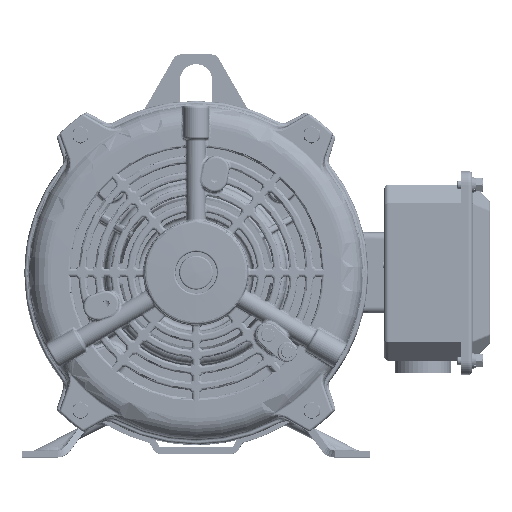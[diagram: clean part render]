
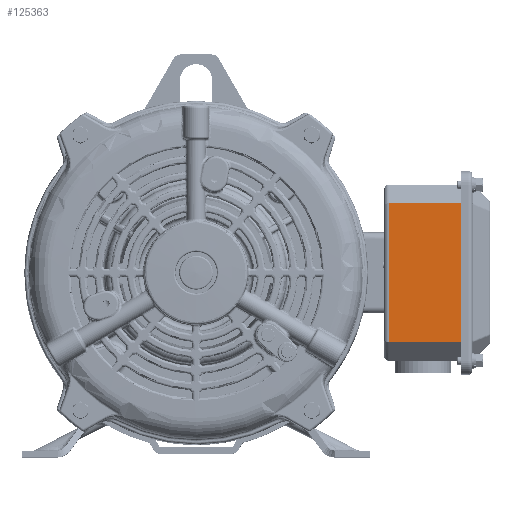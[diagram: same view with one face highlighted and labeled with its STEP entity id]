
A CAD part, top view. The second image highlights one B-rep face of the part: STEP entity #125363.
In plain terms, the highlighted planar face has unit normal (0, 0, 1).
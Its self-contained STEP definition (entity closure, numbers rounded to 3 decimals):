
#2047 = LINE ( 'NONE', #3177, #74032 ) ;
#3177 = CARTESIAN_POINT ( 'NONE',  ( 164.5, -43., 5. ) ) ;
#13474 = ORIENTED_EDGE ( 'NONE', *, *, #27434, .F. ) ;
#25206 = DIRECTION ( 'NONE',  ( 0., -1., 0. ) ) ;
#27434 = EDGE_CURVE ( 'NONE', #188881, #72580, #2047, .T. ) ;
#50119 = ORIENTED_EDGE ( 'NONE', *, *, #211550, .T. ) ;
#50704 = CARTESIAN_POINT ( 'NONE',  ( 164.5, 43., 5. ) ) ;
#59018 = LINE ( 'NONE', #179651, #212140 ) ;
#61397 = LINE ( 'NONE', #213602, #147741 ) ;
#72580 = VERTEX_POINT ( 'NONE', #188071 ) ;
#74032 = VECTOR ( 'NONE', #155404, 1000. ) ;
#81834 = DIRECTION ( 'NONE',  ( 0., 0., -1. ) ) ;
#82702 = CARTESIAN_POINT ( 'NONE',  ( 119.5, 43., 5. ) ) ;
#85374 = VERTEX_POINT ( 'NONE', #177350 ) ;
#94278 = AXIS2_PLACEMENT_3D ( 'NONE', #149429, #81834, #203504 ) ;
#125363 = ADVANCED_FACE ( 'NONE', ( #163063 ), #151683, .F. ) ;
#136408 = DIRECTION ( 'NONE',  ( -1., 0., 0. ) ) ;
#147741 = VECTOR ( 'NONE', #212503, 1000. ) ;
#149429 = CARTESIAN_POINT ( 'NONE',  ( 164.5, -43., 5. ) ) ;
#151683 = PLANE ( 'NONE',  #94278 ) ;
#152609 = EDGE_LOOP ( 'NONE', ( #50119, #194243, #13474, #197450 ) ) ;
#155404 = DIRECTION ( 'NONE',  ( -1., 0., 0. ) ) ;
#163063 = FACE_OUTER_BOUND ( 'NONE', #152609, .T. ) ;
#176160 = VERTEX_POINT ( 'NONE', #82702 ) ;
#177350 = CARTESIAN_POINT ( 'NONE',  ( 167.3, 43., 5. ) ) ;
#179651 = CARTESIAN_POINT ( 'NONE',  ( 167.3, 0., 5. ) ) ;
#184463 = VECTOR ( 'NONE', #136408, 1000. ) ;
#188071 = CARTESIAN_POINT ( 'NONE',  ( 119.5, -43., 5. ) ) ;
#188881 = VERTEX_POINT ( 'NONE', #195517 ) ;
#194243 = ORIENTED_EDGE ( 'NONE', *, *, #199759, .T. ) ;
#194872 = EDGE_CURVE ( 'NONE', #85374, #188881, #59018, .T. ) ;
#195517 = CARTESIAN_POINT ( 'NONE',  ( 167.3, -43., 5. ) ) ;
#197450 = ORIENTED_EDGE ( 'NONE', *, *, #194872, .F. ) ;
#199759 = EDGE_CURVE ( 'NONE', #176160, #72580, #61397, .T. ) ;
#203504 = DIRECTION ( 'NONE',  ( 0., 1., 0. ) ) ;
#205144 = LINE ( 'NONE', #50704, #184463 ) ;
#211550 = EDGE_CURVE ( 'NONE', #85374, #176160, #205144, .T. ) ;
#212140 = VECTOR ( 'NONE', #25206, 1000. ) ;
#212503 = DIRECTION ( 'NONE',  ( 0., -1., 0. ) ) ;
#213602 = CARTESIAN_POINT ( 'NONE',  ( 119.5, -43., 5. ) ) ;
